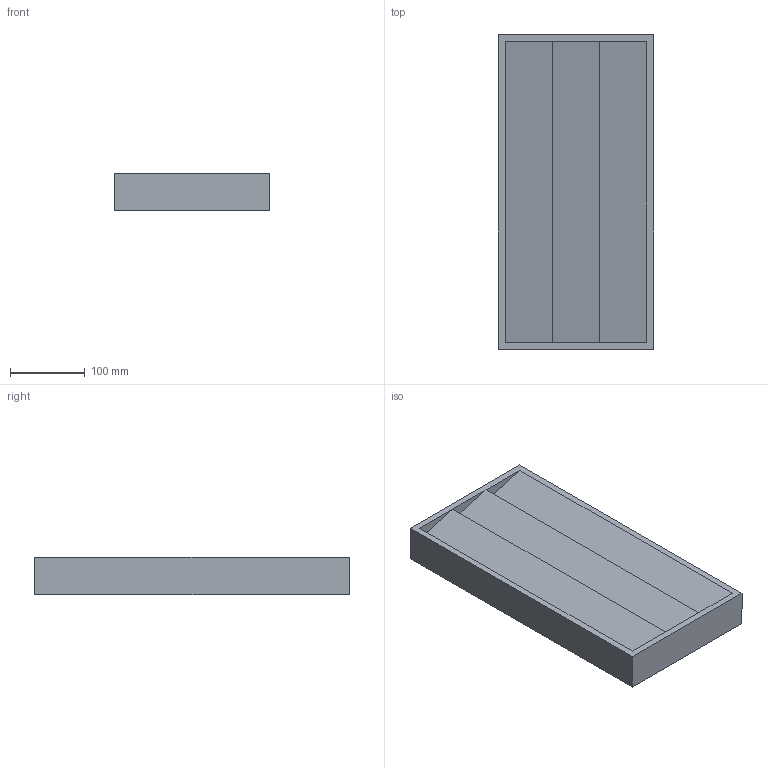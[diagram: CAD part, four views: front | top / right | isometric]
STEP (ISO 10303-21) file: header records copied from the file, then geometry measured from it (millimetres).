
FILE_DESCRIPTION (( 'STEP AP214' ), '1' );
FILE_NAME ('68362_Rollenhalter_NL450.step', '2010-10-11T13:40:50', ( 'grass' ), ( '' ), 'SwSTEP 2.0', 'SolidWorks 2010', '' );
FILE_SCHEMA (( 'AUTOMOTIVE_DESIGN' ));
Length unit declared in the file: millimetre
Products named in the file (1): 68362_Rollenhalter_NL450
Bounding box: 208 x 421 x 50 mm (x, y, z)
Volume: 3689270 mm3; surface area: 266250.6 mm2
Topology: 1 solids, 1 shells, 18 faces, 37 edges, 22 vertices
Faces by surface type: plane 18
Entity records: 491 total; most frequent: CARTESIAN_POINT 78, DIRECTION 75, ORIENTED_EDGE 74, EDGE_CURVE 37, LINE 37, VECTOR 37, VERTEX_POINT 22, AXIS2_PLACEMENT_3D 19
